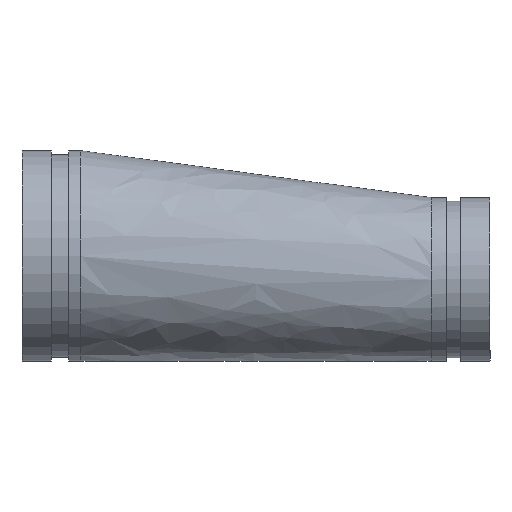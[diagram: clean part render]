
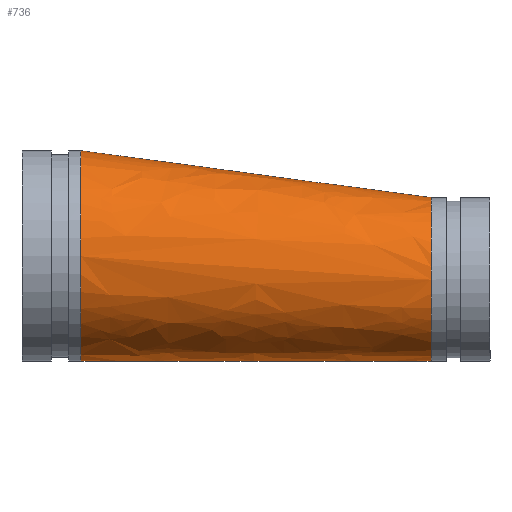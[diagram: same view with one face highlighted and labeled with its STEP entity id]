
A CAD part, top view. The second image highlights one B-rep face of the part: STEP entity #736.
In plain terms, the highlighted free-form (B-spline) face has degree [1, 2] with [2, 9] control points.
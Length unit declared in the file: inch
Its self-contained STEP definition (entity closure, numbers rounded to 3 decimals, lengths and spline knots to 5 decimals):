
#58=B_SPLINE_CURVE_WITH_KNOTS('',1,(#1379,#1380),.UNSPECIFIED.,.F.,.F.,
(2,2),(-3.33946,-0.00029),.UNSPECIFIED.);
#60=(
BOUNDED_SURFACE()
B_SPLINE_SURFACE(1,2,((#1357,#1358,#1359,#1360,#1361,#1362,#1363,#1364,
#1365),(#1366,#1367,#1368,#1369,#1370,#1371,#1372,#1373,#1374)),
 .UNSPECIFIED.,.F.,.T.,.F.)
B_SPLINE_SURFACE_WITH_KNOTS((2,2),(3,2,2,2,3),(-0.06931,3.39099),
(-3.14159,-1.5708,0.,1.5708,3.14159),
 .UNSPECIFIED.)
GEOMETRIC_REPRESENTATION_ITEM()
RATIONAL_B_SPLINE_SURFACE(((1.,0.707,1.,0.707,1.,
0.707,1.,0.707,1.),(1.,0.707,1.,0.707,
1.,0.707,1.,0.707,1.)))
REPRESENTATION_ITEM('')
SURFACE()
);
#128=FACE_OUTER_BOUND('',#160,.T.);
#160=EDGE_LOOP('',(#607,#608,#609,#610,#611,#612,#613));
#244=CIRCLE('',#852,1.75);
#245=CIRCLE('',#853,2.25);
#246=CIRCLE('',#854,2.25);
#247=CIRCLE('',#855,1.75);
#248=CIRCLE('',#856,1.75);
#326=VERTEX_POINT('',#1375);
#327=VERTEX_POINT('',#1376);
#328=VERTEX_POINT('',#1378);
#329=VERTEX_POINT('',#1381);
#330=VERTEX_POINT('',#1384);
#427=EDGE_CURVE('',#326,#327,#244,.T.);
#428=EDGE_CURVE('',#327,#328,#58,.T.);
#429=EDGE_CURVE('',#328,#329,#245,.T.);
#430=EDGE_CURVE('',#329,#328,#246,.T.);
#431=EDGE_CURVE('',#327,#330,#247,.T.);
#432=EDGE_CURVE('',#330,#326,#248,.T.);
#607=ORIENTED_EDGE('',*,*,#427,.T.);
#608=ORIENTED_EDGE('',*,*,#428,.T.);
#609=ORIENTED_EDGE('',*,*,#429,.T.);
#610=ORIENTED_EDGE('',*,*,#430,.T.);
#611=ORIENTED_EDGE('',*,*,#428,.F.);
#612=ORIENTED_EDGE('',*,*,#431,.T.);
#613=ORIENTED_EDGE('',*,*,#432,.T.);
#736=ADVANCED_FACE('',(#128),#60,.F.);
#852=AXIS2_PLACEMENT_3D('',#1377,#1080,#1081);
#853=AXIS2_PLACEMENT_3D('',#1382,#1082,#1083);
#854=AXIS2_PLACEMENT_3D('',#1383,#1084,#1085);
#855=AXIS2_PLACEMENT_3D('',#1385,#1086,#1087);
#856=AXIS2_PLACEMENT_3D('',#1386,#1088,#1089);
#1080=DIRECTION('center_axis',(-1.,0.,0.));
#1081=DIRECTION('ref_axis',(0.,-1.,0.));
#1082=DIRECTION('center_axis',(1.,0.,0.));
#1083=DIRECTION('ref_axis',(0.,1.,0.));
#1084=DIRECTION('center_axis',(1.,0.,0.));
#1085=DIRECTION('ref_axis',(0.,1.,0.));
#1086=DIRECTION('center_axis',(-1.,0.,0.));
#1087=DIRECTION('ref_axis',(0.,-1.,0.));
#1088=DIRECTION('center_axis',(-1.,0.,0.));
#1089=DIRECTION('ref_axis',(0.,-1.,0.));
#1357=CARTESIAN_POINT('Ctrl Pts',(1.10409,0.00041,
2.2604));
#1358=CARTESIAN_POINT('Ctrl Pts',(0.95432,-2.25,2.2604));
#1359=CARTESIAN_POINT('Ctrl Pts',(0.95432,-2.25,0.));
#1360=CARTESIAN_POINT('Ctrl Pts',(0.95432,-2.25,-2.2604));
#1361=CARTESIAN_POINT('Ctrl Pts',(1.10409,0.00041,
-2.2604));
#1362=CARTESIAN_POINT('Ctrl Pts',(1.25385,2.25082,-2.2604));
#1363=CARTESIAN_POINT('Ctrl Pts',(1.25385,2.25082,0.));
#1364=CARTESIAN_POINT('Ctrl Pts',(1.25385,2.25082,2.2604));
#1365=CARTESIAN_POINT('Ctrl Pts',(1.10409,0.00041,
2.2604));
#1366=CARTESIAN_POINT('Ctrl Pts',(8.85543,-0.51543,1.74227));
#1367=CARTESIAN_POINT('Ctrl Pts',(8.74,-2.25,1.74227));
#1368=CARTESIAN_POINT('Ctrl Pts',(8.74,-2.25,0.));
#1369=CARTESIAN_POINT('Ctrl Pts',(8.74,-2.25,-1.74227));
#1370=CARTESIAN_POINT('Ctrl Pts',(8.85543,-0.51543,-1.74227));
#1371=CARTESIAN_POINT('Ctrl Pts',(8.97087,1.21914,-1.74227));
#1372=CARTESIAN_POINT('Ctrl Pts',(8.97087,1.21914,0.));
#1373=CARTESIAN_POINT('Ctrl Pts',(8.97087,1.21914,1.74227));
#1374=CARTESIAN_POINT('Ctrl Pts',(8.85543,-0.51543,1.74227));
#1375=CARTESIAN_POINT('',(8.74,-2.25,0.));
#1376=CARTESIAN_POINT('',(8.74,-0.50775,1.74998));
#1377=CARTESIAN_POINT('Origin',(8.74,-0.5,0.));
#1378=CARTESIAN_POINT('',(1.26,-0.00996,2.24998));
#1379=CARTESIAN_POINT('Ctrl Pts',(8.74,-0.50775,1.74998));
#1380=CARTESIAN_POINT('Ctrl Pts',(1.26,-0.00996,2.24998));
#1381=CARTESIAN_POINT('',(1.26,-2.25,0.));
#1382=CARTESIAN_POINT('Origin',(1.26,0.,0.));
#1383=CARTESIAN_POINT('Origin',(1.26,0.,0.));
#1384=CARTESIAN_POINT('',(8.74,1.25,0.));
#1385=CARTESIAN_POINT('Origin',(8.74,-0.5,0.));
#1386=CARTESIAN_POINT('Origin',(8.74,-0.5,0.));
